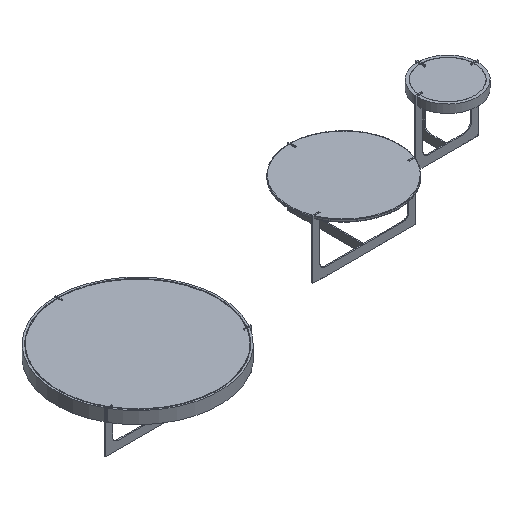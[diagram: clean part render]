
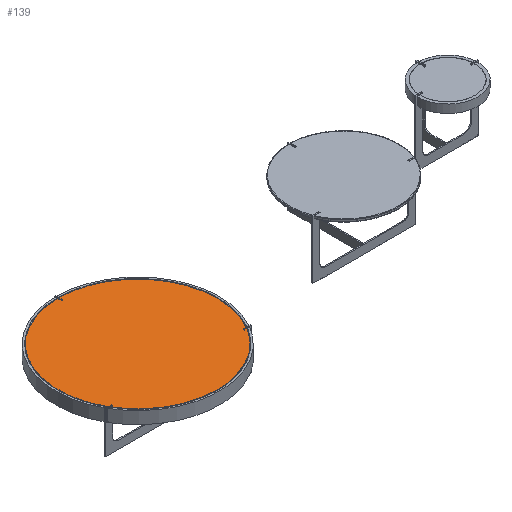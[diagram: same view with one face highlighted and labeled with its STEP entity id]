
A CAD part, isometric view. The second image highlights one B-rep face of the part: STEP entity #139.
In plain terms, the highlighted planar face has unit normal (0, 0, 1).
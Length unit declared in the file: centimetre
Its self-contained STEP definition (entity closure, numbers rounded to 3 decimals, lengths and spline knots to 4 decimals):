
#139=ADVANCED_FACE('',(#336),#3095,.T.);
#336=FACE_OUTER_BOUND('',#533,.T.);
#533=EDGE_LOOP('',(#1081,#1082,#1083,#1084,#1085,#1086,#1087,#1088,#1089,
#1090,#1091,#1092,#1093));
#1081=ORIENTED_EDGE('',*,*,#1886,.T.);
#1082=ORIENTED_EDGE('',*,*,#1909,.T.);
#1083=ORIENTED_EDGE('',*,*,#1889,.T.);
#1084=ORIENTED_EDGE('',*,*,#1893,.F.);
#1085=ORIENTED_EDGE('',*,*,#1892,.T.);
#1086=ORIENTED_EDGE('',*,*,#1908,.T.);
#1087=ORIENTED_EDGE('',*,*,#1891,.T.);
#1088=ORIENTED_EDGE('',*,*,#1894,.F.);
#1089=ORIENTED_EDGE('',*,*,#1890,.T.);
#1090=ORIENTED_EDGE('',*,*,#1907,.T.);
#1091=ORIENTED_EDGE('',*,*,#1870,.T.);
#1092=ORIENTED_EDGE('',*,*,#1887,.T.);
#1093=ORIENTED_EDGE('',*,*,#1888,.F.);
#1870=EDGE_CURVE('',#2824,#2845,#2605,.T.);
#1886=EDGE_CURVE('',#2843,#2844,#2344,.T.);
#1887=EDGE_CURVE('',#2845,#2846,#2345,.T.);
#1888=EDGE_CURVE('',#2843,#2846,#2608,.T.);
#1889=EDGE_CURVE('',#2847,#2848,#2346,.T.);
#1890=EDGE_CURVE('',#2849,#2850,#2347,.T.);
#1891=EDGE_CURVE('',#2851,#2852,#2348,.T.);
#1892=EDGE_CURVE('',#2853,#2854,#2349,.T.);
#1893=EDGE_CURVE('',#2853,#2848,#2609,.T.);
#1894=EDGE_CURVE('',#2849,#2852,#2350,.T.);
#1907=EDGE_CURVE('',#2850,#2824,#2616,.T.);
#1908=EDGE_CURVE('',#2854,#2851,#2617,.T.);
#1909=EDGE_CURVE('',#2844,#2847,#2618,.T.);
#2344=B_SPLINE_CURVE_WITH_KNOTS('',1,(#4450,#4451),.UNSPECIFIED.,.F.,.F.,
(2,2),(34.9987,37.4605),.UNSPECIFIED.);
#2345=B_SPLINE_CURVE_WITH_KNOTS('',1,(#4452,#4453),.UNSPECIFIED.,.F.,.F.,
(2,2),(-37.46,-34.9987),.UNSPECIFIED.);
#2346=B_SPLINE_CURVE_WITH_KNOTS('',1,(#4456,#4457),.UNSPECIFIED.,.F.,.F.,
(2,2),(-50.451,-48.4484),.UNSPECIFIED.);
#2347=B_SPLINE_CURVE_WITH_KNOTS('',1,(#4458,#4459),.UNSPECIFIED.,.F.,.F.,
(2,2),(48.115,50.3826),.UNSPECIFIED.);
#2348=B_SPLINE_CURVE_WITH_KNOTS('',1,(#4460,#4461),.UNSPECIFIED.,.F.,.F.,
(2,2),(-49.9107,-48.115),.UNSPECIFIED.);
#2349=B_SPLINE_CURVE_WITH_KNOTS('',1,(#4462,#4463),.UNSPECIFIED.,.F.,.F.,
(2,2),(48.4484,49.9791),.UNSPECIFIED.);
#2350=B_SPLINE_CURVE_WITH_KNOTS('',1,(#4466,#4467),.UNSPECIFIED.,.F.,.F.,
(2,2),(29.1987,29.9987),.UNSPECIFIED.);
#2605=(
BOUNDED_CURVE()
B_SPLINE_CURVE(2,(#4417,#4418,#4419),.UNSPECIFIED.,.F.,.F.)
B_SPLINE_CURVE_WITH_KNOTS((3,3),(0.,91.0827),.UNSPECIFIED.)
CURVE()
GEOMETRIC_REPRESENTATION_ITEM()
RATIONAL_B_SPLINE_CURVE((1.,0.71,1.))
REPRESENTATION_ITEM('')
);
#2608=(
BOUNDED_CURVE()
B_SPLINE_CURVE(1,(#4454,#4455),.UNSPECIFIED.,.F.,.F.)
B_SPLINE_CURVE_WITH_KNOTS((2,2),(-0.8,0.),.UNSPECIFIED.)
CURVE()
GEOMETRIC_REPRESENTATION_ITEM()
RATIONAL_B_SPLINE_CURVE((1.,1.))
REPRESENTATION_ITEM('')
);
#2609=(
BOUNDED_CURVE()
B_SPLINE_CURVE(1,(#4464,#4465),.UNSPECIFIED.,.F.,.F.)
B_SPLINE_CURVE_WITH_KNOTS((2,2),(-157.2745,-156.4745),
 .UNSPECIFIED.)
CURVE()
GEOMETRIC_REPRESENTATION_ITEM()
RATIONAL_B_SPLINE_CURVE((1.,1.))
REPRESENTATION_ITEM('')
);
#2616=(
BOUNDED_CURVE()
B_SPLINE_CURVE(2,(#4518,#4519,#4520),.UNSPECIFIED.,.F.,.F.)
B_SPLINE_CURVE_WITH_KNOTS((3,3),(335.4836,366.0676),
 .UNSPECIFIED.)
CURVE()
GEOMETRIC_REPRESENTATION_ITEM()
RATIONAL_B_SPLINE_CURVE((1.,0.966,1.))
REPRESENTATION_ITEM('')
);
#2617=(
BOUNDED_CURVE()
B_SPLINE_CURVE(2,(#4521,#4522,#4523,#4524,#4525),.UNSPECIFIED.,.F.,.F.)
B_SPLINE_CURVE_WITH_KNOTS((3,2,3),(214.5466,274.5507,334.5548),
 .UNSPECIFIED.)
CURVE()
GEOMETRIC_REPRESENTATION_ITEM()
RATIONAL_B_SPLINE_CURVE((1.,0.87,1.,0.87,1.))
REPRESENTATION_ITEM('')
);
#2618=(
BOUNDED_CURVE()
B_SPLINE_CURVE(2,(#4526,#4527,#4528,#4529,#4530),.UNSPECIFIED.,.F.,.F.)
B_SPLINE_CURVE_WITH_KNOTS((3,2,3),(91.8827,152.7503,213.6178),
 .UNSPECIFIED.)
CURVE()
GEOMETRIC_REPRESENTATION_ITEM()
RATIONAL_B_SPLINE_CURVE((1.,0.867,1.,0.867,1.))
REPRESENTATION_ITEM('')
);
#2824=VERTEX_POINT('',#4376);
#2843=VERTEX_POINT('',#4395);
#2844=VERTEX_POINT('',#4396);
#2845=VERTEX_POINT('',#4397);
#2846=VERTEX_POINT('',#4398);
#2847=VERTEX_POINT('',#4399);
#2848=VERTEX_POINT('',#4400);
#2849=VERTEX_POINT('',#4401);
#2850=VERTEX_POINT('',#4402);
#2851=VERTEX_POINT('',#4403);
#2852=VERTEX_POINT('',#4404);
#2853=VERTEX_POINT('',#4405);
#2854=VERTEX_POINT('',#4406);
#3095=PLANE('',#3364);
#3364=AXIS2_PLACEMENT_3D('',#4315,#3536,$);
#3536=DIRECTION('',(0.,0.,1.));
#4315=CARTESIAN_POINT('',(818.9107,-133.0552,30.0258));
#4376=CARTESIAN_POINT('',(950.2493,-59.9781,30.0258));
#4395=CARTESIAN_POINT('',(891.6219,-4.1795,30.0258));
#4396=CARTESIAN_POINT('',(891.6219,-1.7177,30.0258));
#4397=CARTESIAN_POINT('',(892.4219,-1.7181,30.0258));
#4398=CARTESIAN_POINT('',(892.4219,-4.1795,30.0258));
#4399=CARTESIAN_POINT('',(841.5709,-89.1768,30.0258));
#4400=CARTESIAN_POINT('',(843.5735,-89.1768,30.0258));
#4401=CARTESIAN_POINT('',(940.1369,-89.1768,30.0258));
#4402=CARTESIAN_POINT('',(942.4045,-89.1768,30.0258));
#4403=CARTESIAN_POINT('',(941.9326,-89.9768,30.0258));
#4404=CARTESIAN_POINT('',(940.1369,-89.9768,30.0258));
#4405=CARTESIAN_POINT('',(843.5735,-89.9768,30.0258));
#4406=CARTESIAN_POINT('',(842.0428,-89.9768,30.0258));
#4417=CARTESIAN_POINT('',(950.2493,-59.9781,30.0258));
#4418=CARTESIAN_POINT('',(950.2493,-2.1491,30.0258));
#4419=CARTESIAN_POINT('',(892.4219,-1.7181,30.0258));
#4450=CARTESIAN_POINT('',(891.6219,-4.1795,30.0258));
#4451=CARTESIAN_POINT('',(891.6219,-1.7177,30.0258));
#4452=CARTESIAN_POINT('',(892.4219,-1.7181,30.0258));
#4453=CARTESIAN_POINT('',(892.4219,-4.1795,30.0258));
#4454=CARTESIAN_POINT('',(891.6219,-4.1795,30.0258));
#4455=CARTESIAN_POINT('',(892.4219,-4.1795,30.0258));
#4456=CARTESIAN_POINT('',(841.5709,-89.1768,30.0258));
#4457=CARTESIAN_POINT('',(843.5735,-89.1768,30.0258));
#4458=CARTESIAN_POINT('',(940.1369,-89.1768,30.0258));
#4459=CARTESIAN_POINT('',(942.4045,-89.1768,30.0258));
#4460=CARTESIAN_POINT('',(941.9326,-89.9768,30.0258));
#4461=CARTESIAN_POINT('',(940.1369,-89.9768,30.0258));
#4462=CARTESIAN_POINT('',(843.5735,-89.9768,30.0258));
#4463=CARTESIAN_POINT('',(842.0428,-89.9768,30.0258));
#4464=CARTESIAN_POINT('',(843.5735,-89.9768,30.0258));
#4465=CARTESIAN_POINT('',(843.5735,-89.1768,30.0258));
#4466=CARTESIAN_POINT('',(940.1369,-89.1768,30.0258));
#4467=CARTESIAN_POINT('',(940.1369,-89.9768,30.0258));
#4518=CARTESIAN_POINT('',(942.4045,-89.1768,30.0258));
#4519=CARTESIAN_POINT('',(950.2493,-75.6313,30.0258));
#4520=CARTESIAN_POINT('',(950.2493,-59.9781,30.0258));
#4521=CARTESIAN_POINT('',(842.0428,-89.9768,30.0258));
#4522=CARTESIAN_POINT('',(859.0185,-118.2398,30.0258));
#4523=CARTESIAN_POINT('',(891.9877,-118.2398,30.0258));
#4524=CARTESIAN_POINT('',(924.9569,-118.2398,30.0258));
#4525=CARTESIAN_POINT('',(941.9326,-89.9768,30.0258));
#4526=CARTESIAN_POINT('',(891.6219,-1.7177,30.0258));
#4527=CARTESIAN_POINT('',(858.0809,-1.9283,30.0258));
#4528=CARTESIAN_POINT('',(841.421,-31.0399,30.0258));
#4529=CARTESIAN_POINT('',(824.761,-60.1515,30.0258));
#4530=CARTESIAN_POINT('',(841.5709,-89.1768,30.0258));
